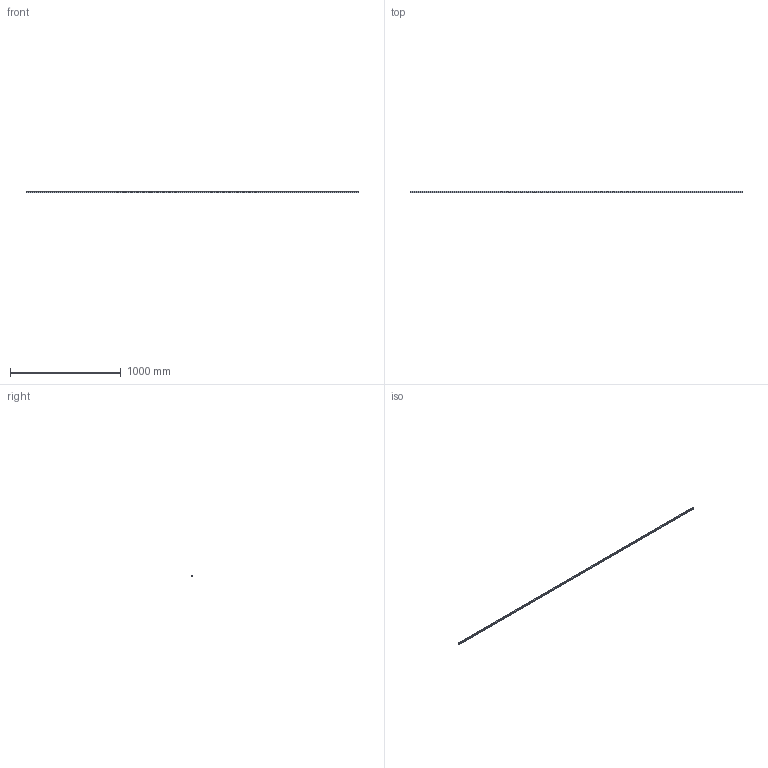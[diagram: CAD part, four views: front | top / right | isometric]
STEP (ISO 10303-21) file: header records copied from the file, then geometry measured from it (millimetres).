
FILE_DESCRIPTION (( 'STEP AP214' ), '1' );
FILE_NAME ('2000827 Porto Mini 6 Abdeckprofil.STEP', '2022-11-18T12:39:01', ( '' ), ( '' ), 'SwSTEP 2.0', 'SolidWorks 2021', '' );
FILE_SCHEMA (( 'AUTOMOTIVE_DESIGN' ));
Length unit declared in the file: millimetre
Products named in the file (1): 2000827 Porto Mini 6 Abdeckprofil
Bounding box: 3000 x 12 x 12.1 mm (x, y, z)
Volume: 104858.9 mm3; surface area: 212414.3 mm2
Topology: 1 solids, 1 shells, 34 faces, 96 edges, 64 vertices
Faces by surface type: plane 20, cylinder 14
Entity records: 1142 total; most frequent: CARTESIAN_POINT 195, DIRECTION 194, ORIENTED_EDGE 192, EDGE_CURVE 96, VECTOR 68, LINE 68, VERTEX_POINT 64, AXIS2_PLACEMENT_3D 63
